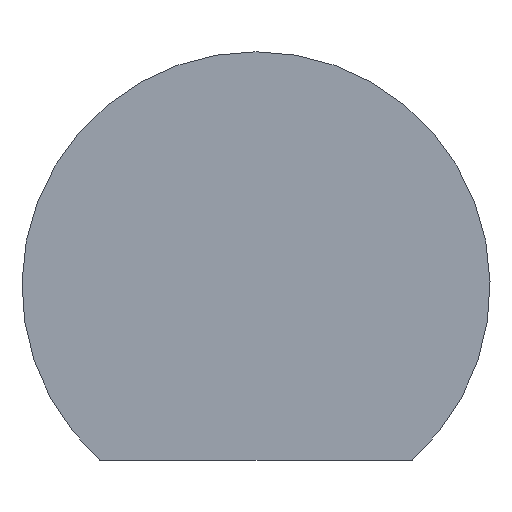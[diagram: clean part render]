
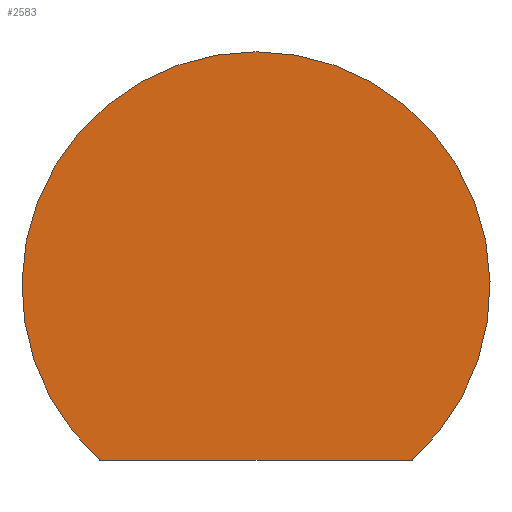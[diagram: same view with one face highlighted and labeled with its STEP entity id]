
A CAD part, front view. The second image highlights one B-rep face of the part: STEP entity #2583.
In plain terms, the highlighted planar face has unit normal (0, -1, 0).
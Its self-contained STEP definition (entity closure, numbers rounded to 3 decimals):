
#44=CIRCLE('',#2751,600.);
#231=ORIENTED_EDGE('',*,*,#977,.F.);
#232=ORIENTED_EDGE('',*,*,#981,.F.);
#977=EDGE_CURVE('',#1355,#1356,#1607,.T.);
#981=EDGE_CURVE('',#1356,#1355,#44,.T.);
#1355=VERTEX_POINT('',#3779);
#1356=VERTEX_POINT('',#3780);
#1607=LINE('',#3778,#1867);
#1867=VECTOR('',#3008,1000.);
#2130=EDGE_LOOP('',(#231,#232));
#2320=FACE_BOUND('',#2130,.T.);
#2509=PLANE('',#2754);
#2583=ADVANCED_FACE('',(#2320),#2509,.F.);
#2751=AXIS2_PLACEMENT_3D('',#3787,#3014,#3015);
#2754=AXIS2_PLACEMENT_3D('',#3790,#3020,#3021);
#3008=DIRECTION('',(-1.,0.,0.));
#3014=DIRECTION('',(0.,1.,0.));
#3015=DIRECTION('',(0.,0.,-1.));
#3020=DIRECTION('',(0.,1.,0.));
#3021=DIRECTION('',(0.,0.,1.));
#3778=CARTESIAN_POINT('',(46.264,0.,-313.513));
#3779=CARTESIAN_POINT('',(846.263,0.,-313.513));
#3780=CARTESIAN_POINT('',(46.264,0.,-313.513));
#3787=CARTESIAN_POINT('',(446.263,0.,133.701));
#3790=CARTESIAN_POINT('',(446.263,0.,133.701));
